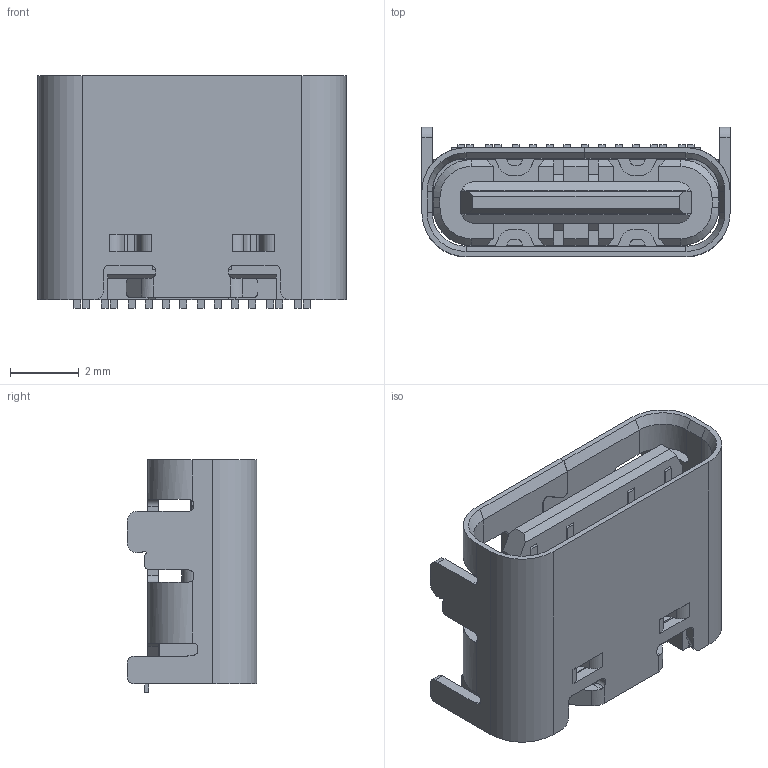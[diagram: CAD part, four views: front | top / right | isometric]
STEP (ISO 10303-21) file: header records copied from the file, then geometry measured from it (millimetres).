
FILE_DESCRIPTION((''),'2;1');
FILE_NAME('GAP-ACF002-6R','2017-12-29T20:01:28',('Administrator'),(''),'CREO PARAMETRIC BY PTC INC, 2016510','CREO PARAMETRIC BY PTC INC, 2016510','');
FILE_SCHEMA(('CONFIG_CONTROL_DESIGN'));
Length unit declared in the file: millimetre
Products named in the file (1): GAP-ACF002-6R
Bounding box: 8.94 x 3.76 x 6.75 mm (x, y, z)
Volume: 95.6 mm3; surface area: 430.7 mm2
Topology: 1 solids, 1 shells, 631 faces, 1838 edges, 1178 vertices
Faces by surface type: plane 467, cylinder 146, cone 12, bspline 6
Entity records: 21295 total; most frequent: CARTESIAN_POINT 4416, ORIENTED_EDGE 3676, DIRECTION 3340, EDGE_CURVE 1838, VECTOR 1494, LINE 1494, VERTEX_POINT 1178, AXIS2_PLACEMENT_3D 923
